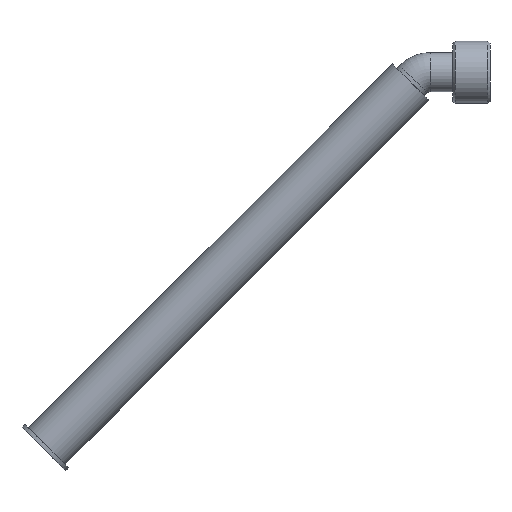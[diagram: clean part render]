
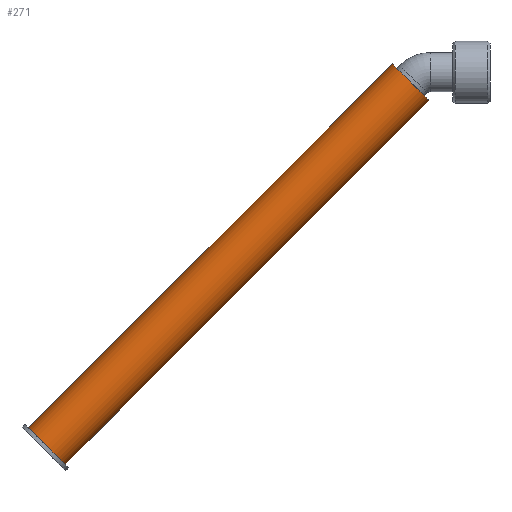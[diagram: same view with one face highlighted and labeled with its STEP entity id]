
A CAD part, top view. The second image highlights one B-rep face of the part: STEP entity #271.
In plain terms, the highlighted cylindrical face has radius 12.5 mm (diameter 25 mm), a full revolution.
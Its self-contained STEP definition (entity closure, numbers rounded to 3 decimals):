
#271 = ADVANCED_FACE( '', ( #375, #376 ), #377, .T. );
#375 = FACE_OUTER_BOUND( '', #508, .T. );
#376 = FACE_OUTER_BOUND( '', #509, .T. );
#377 = CYLINDRICAL_SURFACE( '', #510, 12.5 );
#508 = EDGE_LOOP( '', ( #696 ) );
#509 = EDGE_LOOP( '', ( #697 ) );
#510 = AXIS2_PLACEMENT_3D( '', #698, #699, #700 );
#696 = ORIENTED_EDGE( '', *, *, #804, .T. );
#697 = ORIENTED_EDGE( '', *, *, #806, .F. );
#698 = CARTESIAN_POINT( '', ( 250., 0., 0. ) );
#699 = DIRECTION( '', ( -1., 0., 0. ) );
#700 = DIRECTION( '', ( 0., 0., -1. ) );
#804 = EDGE_CURVE( '', #873, #873, #874, .T. );
#806 = EDGE_CURVE( '', #877, #877, #878, .T. );
#873 = VERTEX_POINT( '', #959 );
#874 = CIRCLE( '', #960, 12.5 );
#877 = VERTEX_POINT( '', #963 );
#878 = CIRCLE( '', #964, 12.5 );
#959 = CARTESIAN_POINT( '', ( 0., 0., -12.5 ) );
#960 = AXIS2_PLACEMENT_3D( '', #1071, #1072, #1073 );
#963 = CARTESIAN_POINT( '', ( 250., 0., -12.5 ) );
#964 = AXIS2_PLACEMENT_3D( '', #1077, #1078, #1079 );
#1071 = CARTESIAN_POINT( '', ( 0., 0., 0. ) );
#1072 = DIRECTION( '', ( 1., 0., 0. ) );
#1073 = DIRECTION( '', ( 0., 0., -1. ) );
#1077 = CARTESIAN_POINT( '', ( 250., 0., 0. ) );
#1078 = DIRECTION( '', ( 1., 0., 0. ) );
#1079 = DIRECTION( '', ( 0., 0., -1. ) );
